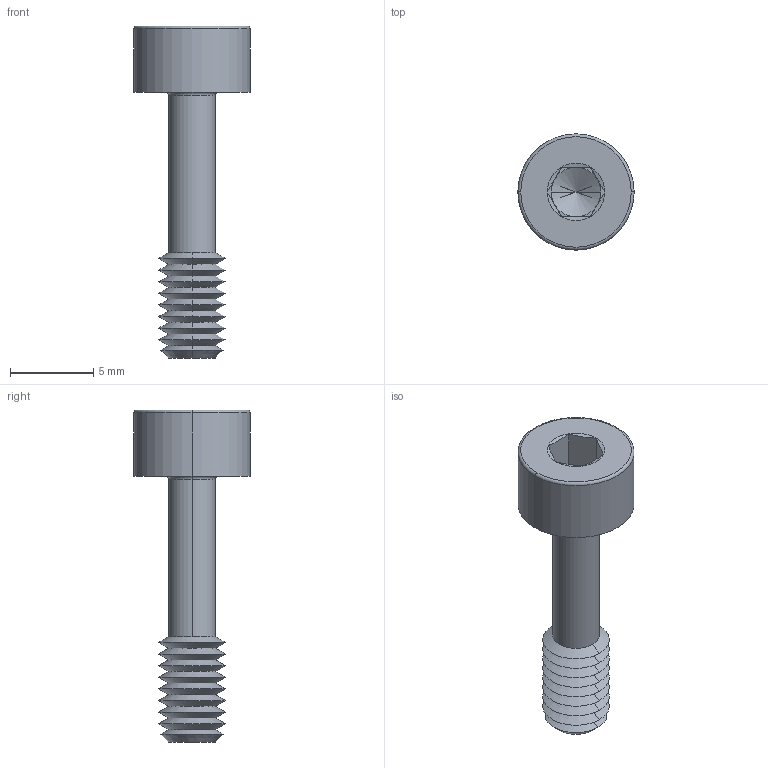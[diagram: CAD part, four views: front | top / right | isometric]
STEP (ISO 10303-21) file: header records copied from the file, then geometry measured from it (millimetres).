
FILE_DESCRIPTION (( 'STEP AP203' ), '1' );
FILE_NAME ('P0154.040-016-BL.step', '2024-06-17T11:24:24', ( '' ), ( '' ), 'SwSTEP 2.0', 'SolidWorks 2019', '' );
FILE_SCHEMA (( 'CONFIG_CONTROL_DESIGN' ));
Length unit declared in the file: millimetre
Products named in the file (1): P0154.040-016-BL
Bounding box: 7 x 7 x 20 mm (x, y, z)
Volume: 245.4 mm3; surface area: 411.4 mm2
Topology: 1 solids, 1 shells, 67 faces, 136 edges, 71 vertices
Faces by surface type: cone 44, plane 15, torus 4, cylinder 4
Entity records: 1787 total; most frequent: DIRECTION 332, CARTESIAN_POINT 299, ORIENTED_EDGE 268, AXIS2_PLACEMENT_3D 136, EDGE_CURVE 134, VERTEX_POINT 71, EDGE_LOOP 69, CIRCLE 68
